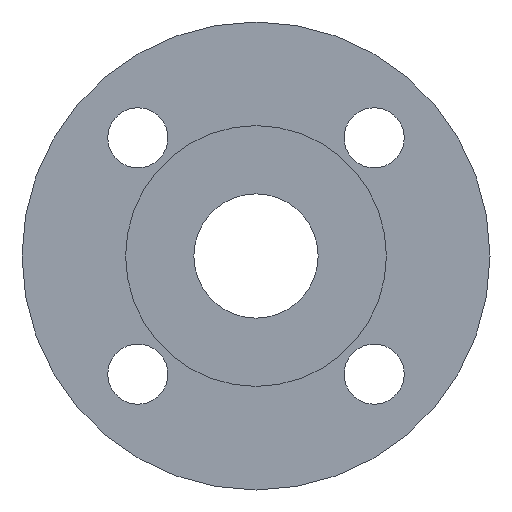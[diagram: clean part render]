
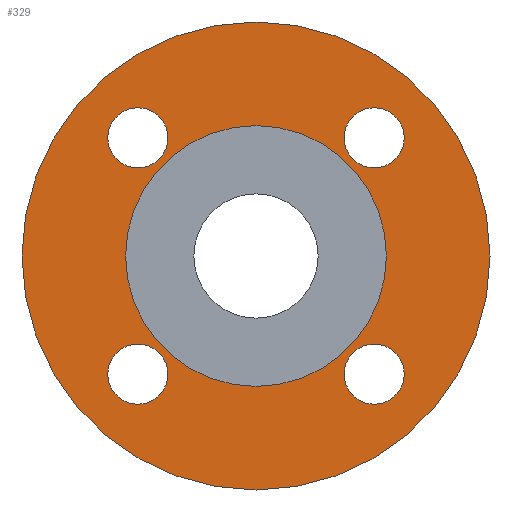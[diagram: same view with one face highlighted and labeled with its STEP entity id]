
A CAD part, left-side view. The second image highlights one B-rep face of the part: STEP entity #329.
In plain terms, the highlighted planar face has unit normal (-1, 0, 0).
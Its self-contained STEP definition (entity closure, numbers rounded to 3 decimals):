
#23=FACE_BOUND('',#70,.T.);
#24=FACE_BOUND('',#71,.T.);
#25=FACE_BOUND('',#72,.T.);
#26=FACE_BOUND('',#73,.T.);
#27=FACE_BOUND('',#74,.T.);
#32=PLANE('',#396);
#46=FACE_OUTER_BOUND('',#69,.T.);
#69=EDGE_LOOP('',(#282,#283));
#70=EDGE_LOOP('',(#284));
#71=EDGE_LOOP('',(#285));
#72=EDGE_LOOP('',(#286));
#73=EDGE_LOOP('',(#287));
#74=EDGE_LOOP('',(#288,#289));
#102=CIRCLE('',#357,9.);
#105=CIRCLE('',#361,9.);
#108=CIRCLE('',#365,9.);
#111=CIRCLE('',#369,9.);
#129=CIRCLE('',#394,39.);
#130=CIRCLE('',#395,39.);
#131=CIRCLE('',#397,70.);
#132=CIRCLE('',#398,70.);
#138=VERTEX_POINT('',#528);
#141=VERTEX_POINT('',#536);
#144=VERTEX_POINT('',#544);
#147=VERTEX_POINT('',#552);
#164=VERTEX_POINT('',#597);
#165=VERTEX_POINT('',#598);
#166=VERTEX_POINT('',#603);
#167=VERTEX_POINT('',#604);
#174=EDGE_CURVE('',#138,#138,#102,.T.);
#178=EDGE_CURVE('',#141,#141,#105,.T.);
#182=EDGE_CURVE('',#144,#144,#108,.T.);
#186=EDGE_CURVE('',#147,#147,#111,.T.);
#206=EDGE_CURVE('',#164,#165,#129,.T.);
#207=EDGE_CURVE('',#165,#164,#130,.T.);
#209=EDGE_CURVE('',#166,#167,#131,.T.);
#210=EDGE_CURVE('',#167,#166,#132,.T.);
#282=ORIENTED_EDGE('',*,*,#209,.F.);
#283=ORIENTED_EDGE('',*,*,#210,.F.);
#284=ORIENTED_EDGE('',*,*,#174,.T.);
#285=ORIENTED_EDGE('',*,*,#178,.T.);
#286=ORIENTED_EDGE('',*,*,#182,.T.);
#287=ORIENTED_EDGE('',*,*,#186,.T.);
#288=ORIENTED_EDGE('',*,*,#206,.T.);
#289=ORIENTED_EDGE('',*,*,#207,.T.);
#329=ADVANCED_FACE('',(#46,#23,#24,#25,#26,#27),#32,.T.);
#357=AXIS2_PLACEMENT_3D('',#530,#415,#416);
#361=AXIS2_PLACEMENT_3D('',#538,#424,#425);
#365=AXIS2_PLACEMENT_3D('',#546,#433,#434);
#369=AXIS2_PLACEMENT_3D('',#554,#442,#443);
#394=AXIS2_PLACEMENT_3D('',#599,#494,#495);
#395=AXIS2_PLACEMENT_3D('',#600,#496,#497);
#396=AXIS2_PLACEMENT_3D('',#602,#499,#500);
#397=AXIS2_PLACEMENT_3D('',#605,#501,#502);
#398=AXIS2_PLACEMENT_3D('',#606,#503,#504);
#415=DIRECTION('center_axis',(1.,0.,0.));
#416=DIRECTION('ref_axis',(0.,-1.,0.));
#424=DIRECTION('center_axis',(1.,0.,0.));
#425=DIRECTION('ref_axis',(0.,0.,1.));
#433=DIRECTION('center_axis',(1.,0.,0.));
#434=DIRECTION('ref_axis',(0.,1.,0.));
#442=DIRECTION('center_axis',(1.,0.,0.));
#443=DIRECTION('ref_axis',(0.,0.,-1.));
#494=DIRECTION('center_axis',(1.,0.,0.));
#495=DIRECTION('ref_axis',(0.,0.,-1.));
#496=DIRECTION('center_axis',(1.,0.,0.));
#497=DIRECTION('ref_axis',(0.,0.,-1.));
#499=DIRECTION('center_axis',(-1.,0.,0.));
#500=DIRECTION('ref_axis',(0.,0.,1.));
#501=DIRECTION('center_axis',(1.,0.,0.));
#502=DIRECTION('ref_axis',(0.,0.,-1.));
#503=DIRECTION('center_axis',(1.,0.,0.));
#504=DIRECTION('ref_axis',(0.,0.,-1.));
#528=CARTESIAN_POINT('',(-40.,44.355,-35.355));
#530=CARTESIAN_POINT('Origin',(-40.,35.355,-35.355));
#536=CARTESIAN_POINT('',(-40.,-35.355,-44.355));
#538=CARTESIAN_POINT('Origin',(-40.,-35.355,-35.355));
#544=CARTESIAN_POINT('',(-40.,-44.355,35.355));
#546=CARTESIAN_POINT('Origin',(-40.,-35.355,35.355));
#552=CARTESIAN_POINT('',(-40.,35.355,44.355));
#554=CARTESIAN_POINT('Origin',(-40.,35.355,35.355));
#597=CARTESIAN_POINT('',(-40.,39.,0.));
#598=CARTESIAN_POINT('',(-40.,-39.,0.));
#599=CARTESIAN_POINT('Origin',(-40.,0.,0.));
#600=CARTESIAN_POINT('Origin',(-40.,0.,0.));
#602=CARTESIAN_POINT('Origin',(-40.,70.,0.));
#603=CARTESIAN_POINT('',(-40.,70.,0.));
#604=CARTESIAN_POINT('',(-40.,-70.,0.));
#605=CARTESIAN_POINT('Origin',(-40.,0.,0.));
#606=CARTESIAN_POINT('Origin',(-40.,0.,0.));
